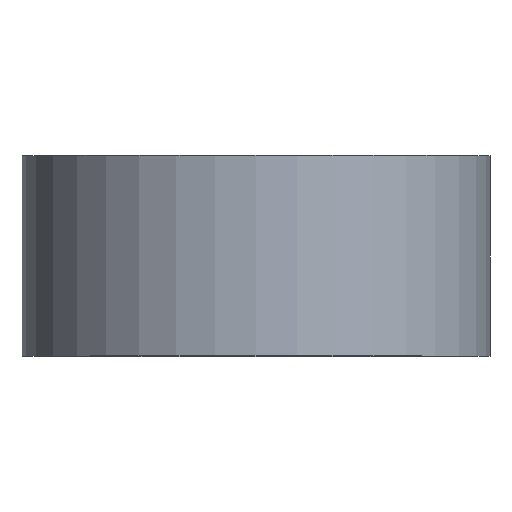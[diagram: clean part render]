
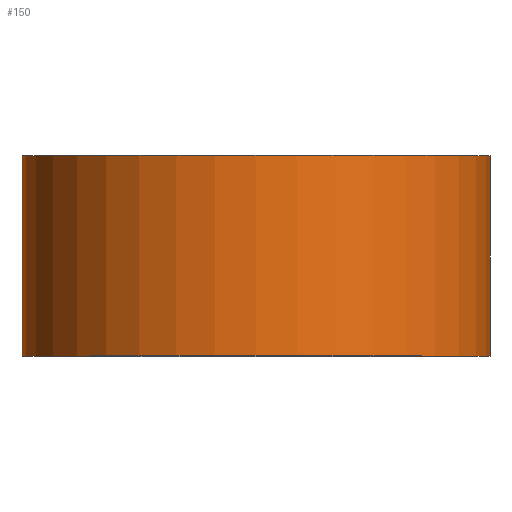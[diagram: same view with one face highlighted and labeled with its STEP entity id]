
A CAD part, top view. The second image highlights one B-rep face of the part: STEP entity #150.
In plain terms, the highlighted cylindrical face has radius 35 mm (diameter 70 mm), a partial arc.
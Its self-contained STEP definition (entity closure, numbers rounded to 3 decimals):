
#2 = VERTEX_POINT ( 'NONE', #175 ) ;
#6 = EDGE_CURVE ( 'NONE', #2, #228, #54, .T. ) ;
#14 = EDGE_CURVE ( 'NONE', #38, #218, #263, .T. ) ;
#16 = DIRECTION ( 'NONE',  ( 0., 1., 0. ) ) ;
#18 = EDGE_CURVE ( 'NONE', #218, #228, #196, .T. ) ;
#24 = DIRECTION ( 'NONE',  ( 0., 1., 0. ) ) ;
#25 = ORIENTED_EDGE ( 'NONE', *, *, #268, .T. ) ;
#34 = CARTESIAN_POINT ( 'NONE',  ( 0., 0., 0. ) ) ;
#38 = VERTEX_POINT ( 'NONE', #149 ) ;
#54 = LINE ( 'NONE', #290, #272 ) ;
#56 = DIRECTION ( 'NONE',  ( 0., 1., 0. ) ) ;
#60 = EDGE_LOOP ( 'NONE', ( #25, #260, #162, #64 ) ) ;
#64 = ORIENTED_EDGE ( 'NONE', *, *, #14, .F. ) ;
#115 = CARTESIAN_POINT ( 'NONE',  ( -35., 30., 0. ) ) ;
#116 = CARTESIAN_POINT ( 'NONE',  ( 35., 30., 0. ) ) ;
#120 = AXIS2_PLACEMENT_3D ( 'NONE', #34, #16, #248 ) ;
#130 = AXIS2_PLACEMENT_3D ( 'NONE', #214, #24, #187 ) ;
#149 = CARTESIAN_POINT ( 'NONE',  ( -35., 0., 0. ) ) ;
#150 = ADVANCED_FACE ( 'NONE', ( #195 ), #297, .T. ) ;
#162 = ORIENTED_EDGE ( 'NONE', *, *, #18, .F. ) ;
#175 = CARTESIAN_POINT ( 'NONE',  ( 35., 0., 0. ) ) ;
#187 = DIRECTION ( 'NONE',  ( -1., 0., 0. ) ) ;
#195 = FACE_OUTER_BOUND ( 'NONE', #60, .T. ) ;
#196 = CIRCLE ( 'NONE', #274, 35. ) ;
#197 = DIRECTION ( 'NONE',  ( 0., 1., 0. ) ) ;
#213 = VECTOR ( 'NONE', #285, 1000. ) ;
#214 = CARTESIAN_POINT ( 'NONE',  ( 0., 0., 0. ) ) ;
#218 = VERTEX_POINT ( 'NONE', #115 ) ;
#226 = CARTESIAN_POINT ( 'NONE',  ( 0., 30., 0. ) ) ;
#228 = VERTEX_POINT ( 'NONE', #116 ) ;
#232 = DIRECTION ( 'NONE',  ( -1., 0., 0. ) ) ;
#233 = CIRCLE ( 'NONE', #130, 35. ) ;
#248 = DIRECTION ( 'NONE',  ( -1., 0., 0. ) ) ;
#260 = ORIENTED_EDGE ( 'NONE', *, *, #6, .T. ) ;
#263 = LINE ( 'NONE', #265, #213 ) ;
#265 = CARTESIAN_POINT ( 'NONE',  ( -35., 0., 0. ) ) ;
#268 = EDGE_CURVE ( 'NONE', #38, #2, #233, .T. ) ;
#272 = VECTOR ( 'NONE', #56, 1000. ) ;
#274 = AXIS2_PLACEMENT_3D ( 'NONE', #226, #197, #232 ) ;
#285 = DIRECTION ( 'NONE',  ( 0., 1., 0. ) ) ;
#290 = CARTESIAN_POINT ( 'NONE',  ( 35., 0., 0. ) ) ;
#297 = CYLINDRICAL_SURFACE ( 'NONE', #120, 35. ) ;
